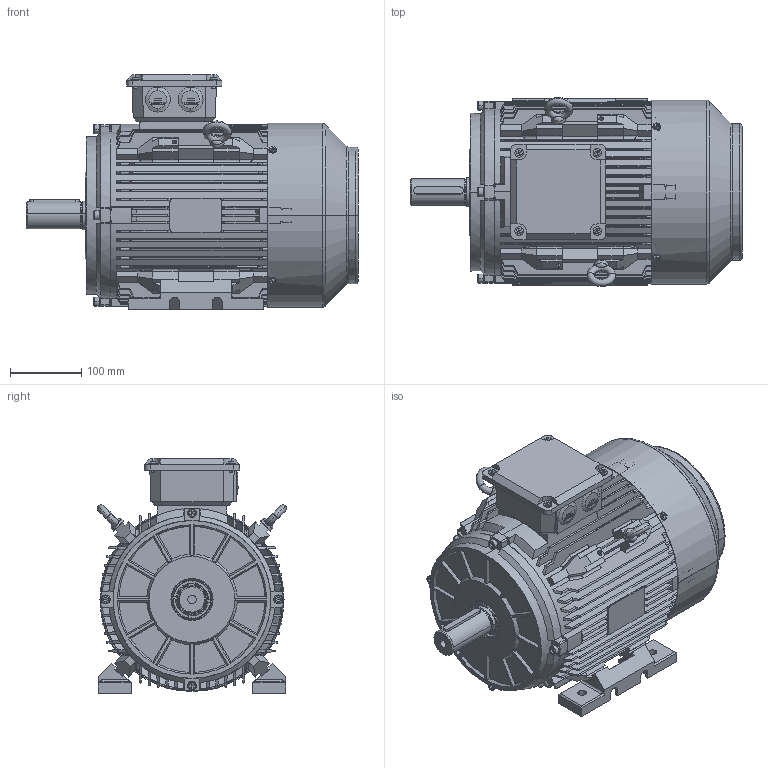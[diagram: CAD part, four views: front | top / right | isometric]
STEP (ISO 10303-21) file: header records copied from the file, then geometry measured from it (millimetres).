
FILE_DESCRIPTION (( 'STEP AP203' ), '1' );
FILE_NAME ('TC 132S B3外形图.STEP', '2013-06-25T02:28:54', ( '微软用户' ), ( '微软中国' ), 'SwSTEP 2.0', 'SolidWorks 2008', '' );
FILE_SCHEMA (( 'CONFIG_CONTROL_DESIGN' ));
Products named in the file (19): TC 132S转子_默认; M25螺塞_默认; 132风叶_默认; 油封40-58-7_默认; M5-8_默认; 吊环M8_默认; TC 132S B3俋倛芞; TC 132S B5 机座_默认; TC 132S 底脚_默认; TC 132S （波形垫在前）轴_默认; 6308_默认; TC 112-132接线盒座_默认; TC 112-132接线盒盖_默认; 风罩_默认; M8-30_默认; 8_默认; M5-12_默认; 平键10-70_默认; TC 132 B3 端盖_默认
Assembly tree (36 placements, depth 3):
  TC 132S B3俋倛芞
    TC 132 B3 端盖_默认  x2
    8_默认  x4
    M25螺塞_默认  x2
    TC 132S转子_默认
      6308_默认  x2
      TC 132S （波形垫在前）轴_默认
    平键10-70_默认
    吊环M8_默认  x2
    TC 132S 底脚_默认  x2
    风罩_默认
    M8-30_默认  x4
    M5-12_默认  x4
    M5-8_默认  x4
    油封40-58-7_默认  x2
    TC 132S B5 机座_默认
    132风叶_默认
    TC 112-132接线盒座_默认
    TC 112-132接线盒盖_默认
Bounding box: 467 x 265.93 x 330.04 mm (x, y, z)
Volume: 4436247.8 mm3; surface area: 1632944.1 mm2
Topology: 35 solids, 35 shells, 4088 faces, 11283 edges, 7360 vertices
Faces by surface type: plane 2017, cylinder 1508, cone 339, bspline 112, torus 112
Entity records: 122206 total; most frequent: CARTESIAN_POINT 32655, ORIENTED_EDGE 18906, DIRECTION 17329, EDGE_CURVE 9453, VERTEX_POINT 6207, AXIS2_PLACEMENT_3D 5906, VECTOR 5517, LINE 5517
